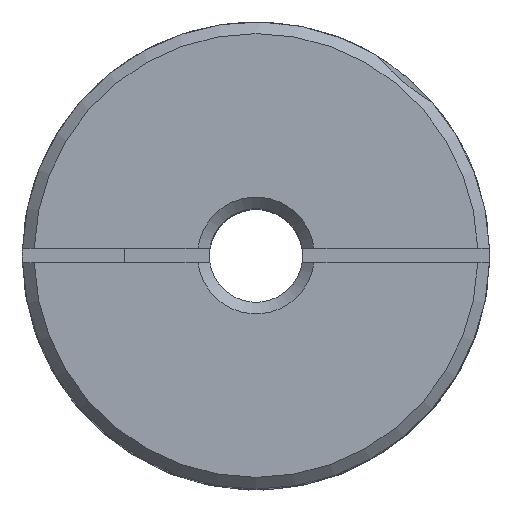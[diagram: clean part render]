
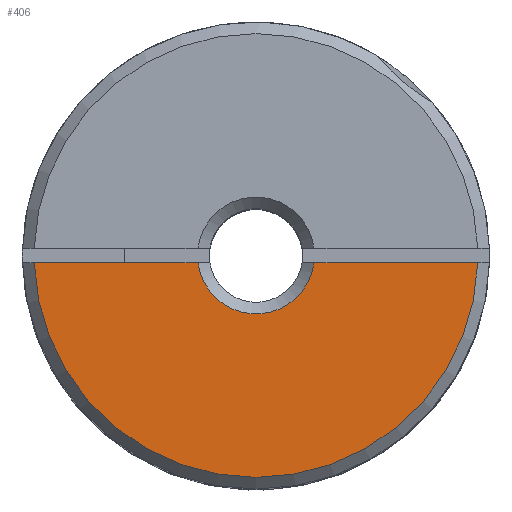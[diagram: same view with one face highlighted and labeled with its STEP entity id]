
A CAD part, top view. The second image highlights one B-rep face of the part: STEP entity #406.
In plain terms, the highlighted planar face has unit normal (0, 0, 1).
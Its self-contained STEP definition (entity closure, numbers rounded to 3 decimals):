
#406 = ADVANCED_FACE ( 'NONE', ( #1996 ), #2002, .T. ) ;
#407 = EDGE_LOOP ( 'NONE', ( #408, #412, #430, #433 ) ) ;
#408 = ORIENTED_EDGE ( 'NONE', *, *, #409, .F. ) ;
#409 = EDGE_CURVE ( 'NONE', #410, #411, #1968, .T. ) ;
#410 = VERTEX_POINT ( 'NONE', #1964 ) ;
#411 = VERTEX_POINT ( 'NONE', #1963 ) ;
#412 = ORIENTED_EDGE ( 'NONE', *, *, #413, .T. ) ;
#413 = EDGE_CURVE ( 'NONE', #410, #429, #1962, .T. ) ;
#429 = VERTEX_POINT ( 'NONE', #2027 ) ;
#430 = ORIENTED_EDGE ( 'NONE', *, *, #431, .F. ) ;
#431 = EDGE_CURVE ( 'NONE', #432, #429, #2026, .T. ) ;
#432 = VERTEX_POINT ( 'NONE', #2022 ) ;
#433 = ORIENTED_EDGE ( 'NONE', *, *, #434, .T. ) ;
#434 = EDGE_CURVE ( 'NONE', #432, #411, #2020, .T. ) ;
#1957 = DIRECTION ( 'NONE',  ( 1., 0., 0. ) ) ;
#1958 = DIRECTION ( 'NONE',  ( 0., 0., 1. ) ) ;
#1959 = CARTESIAN_POINT ( 'NONE',  ( 0., 0., 26. ) ) ;
#1960 = AXIS2_PLACEMENT_3D ( 'NONE', #1959, #1958, #1957 ) ;
#1962 = CIRCLE ( 'NONE', #1960, 9.5 ) ;
#1963 = CARTESIAN_POINT ( 'NONE',  ( -2.48, -0.313, 26. ) ) ;
#1964 = CARTESIAN_POINT ( 'NONE',  ( -9.495, -0.313, 26. ) ) ;
#1965 = DIRECTION ( 'NONE',  ( 1., 0., 0. ) ) ;
#1966 = VECTOR ( 'NONE', #1965, 1000. ) ;
#1967 = CARTESIAN_POINT ( 'NONE',  ( -9.995, -0.313, 26. ) ) ;
#1968 = LINE ( 'NONE', #1967, #1966 ) ;
#1969 = DIRECTION ( 'NONE',  ( 1., 0., 0. ) ) ;
#1970 = DIRECTION ( 'NONE',  ( 0., 0., 1. ) ) ;
#1971 = CARTESIAN_POINT ( 'NONE',  ( 0., 0., 26. ) ) ;
#1972 = AXIS2_PLACEMENT_3D ( 'NONE', #1971, #1970, #1969 ) ;
#1996 = FACE_OUTER_BOUND ( 'NONE', #407, .T. ) ;
#2002 = PLANE ( 'NONE',  #1972 ) ;
#2016 = DIRECTION ( 'NONE',  ( 1., 0., 0. ) ) ;
#2017 = DIRECTION ( 'NONE',  ( 0., 0., -1. ) ) ;
#2018 = CARTESIAN_POINT ( 'NONE',  ( 0., 0., 26. ) ) ;
#2019 = AXIS2_PLACEMENT_3D ( 'NONE', #2018, #2017, #2016 ) ;
#2020 = CIRCLE ( 'NONE', #2019, 2.5 ) ;
#2022 = CARTESIAN_POINT ( 'NONE',  ( 2.48, -0.313, 26. ) ) ;
#2023 = DIRECTION ( 'NONE',  ( 1., 0., 0. ) ) ;
#2024 = VECTOR ( 'NONE', #2023, 1000. ) ;
#2025 = CARTESIAN_POINT ( 'NONE',  ( -9.995, -0.313, 26. ) ) ;
#2026 = LINE ( 'NONE', #2025, #2024 ) ;
#2027 = CARTESIAN_POINT ( 'NONE',  ( 9.495, -0.313, 26. ) ) ;
